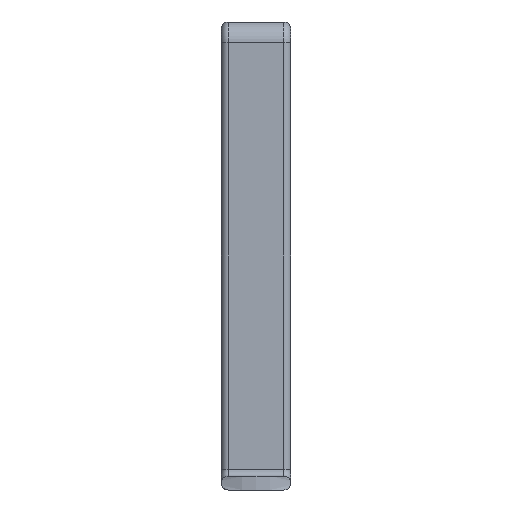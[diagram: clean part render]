
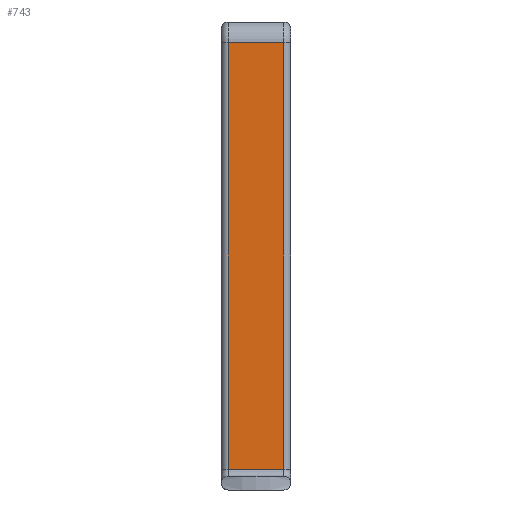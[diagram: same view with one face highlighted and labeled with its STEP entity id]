
A CAD part, left-side view. The second image highlights one B-rep face of the part: STEP entity #743.
In plain terms, the highlighted planar face has unit normal (-1, 0, 0).
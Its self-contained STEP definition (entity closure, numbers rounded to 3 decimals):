
#351=DIRECTION('',(0.,0.,-1.));
#352=VECTOR('',#351,123.);
#353=CARTESIAN_POINT('',(66.,18.,129.));
#354=LINE('',#353,#352);
#355=DIRECTION('',(0.,1.,0.));
#356=VECTOR('',#355,16.);
#357=CARTESIAN_POINT('',(66.,2.,129.));
#358=LINE('',#357,#356);
#359=DIRECTION('',(0.,0.,-1.));
#360=VECTOR('',#359,123.);
#361=CARTESIAN_POINT('',(66.,2.,129.));
#362=LINE('',#361,#360);
#363=DIRECTION('',(0.,-1.,0.));
#364=VECTOR('',#363,16.);
#365=CARTESIAN_POINT('',(66.,18.,6.));
#366=LINE('',#365,#364);
#545=CARTESIAN_POINT('',(66.,18.,129.));
#546=CARTESIAN_POINT('',(66.,18.,6.));
#547=VERTEX_POINT('',#545);
#548=VERTEX_POINT('',#546);
#549=CARTESIAN_POINT('',(66.,2.,129.));
#550=CARTESIAN_POINT('',(66.,2.,6.));
#551=VERTEX_POINT('',#549);
#552=VERTEX_POINT('',#550);
#729=CARTESIAN_POINT('',(66.,0.,131.));
#730=DIRECTION('',(1.,0.,0.));
#731=DIRECTION('',(0.,0.,-1.));
#732=AXIS2_PLACEMENT_3D('',#729,#730,#731);
#733=PLANE('',#732);
#735=ORIENTED_EDGE('',*,*,#734,.F.);
#737=ORIENTED_EDGE('',*,*,#736,.F.);
#739=ORIENTED_EDGE('',*,*,#738,.T.);
#740=ORIENTED_EDGE('',*,*,#722,.F.);
#741=EDGE_LOOP('',(#735,#737,#739,#740));
#742=FACE_OUTER_BOUND('',#741,.F.);
#722=EDGE_CURVE('',#548,#552,#366,.T.);
#734=EDGE_CURVE('',#547,#548,#354,.T.);
#736=EDGE_CURVE('',#551,#547,#358,.T.);
#738=EDGE_CURVE('',#551,#552,#362,.T.);
#743=ADVANCED_FACE('',(#742),#733,.F.);
